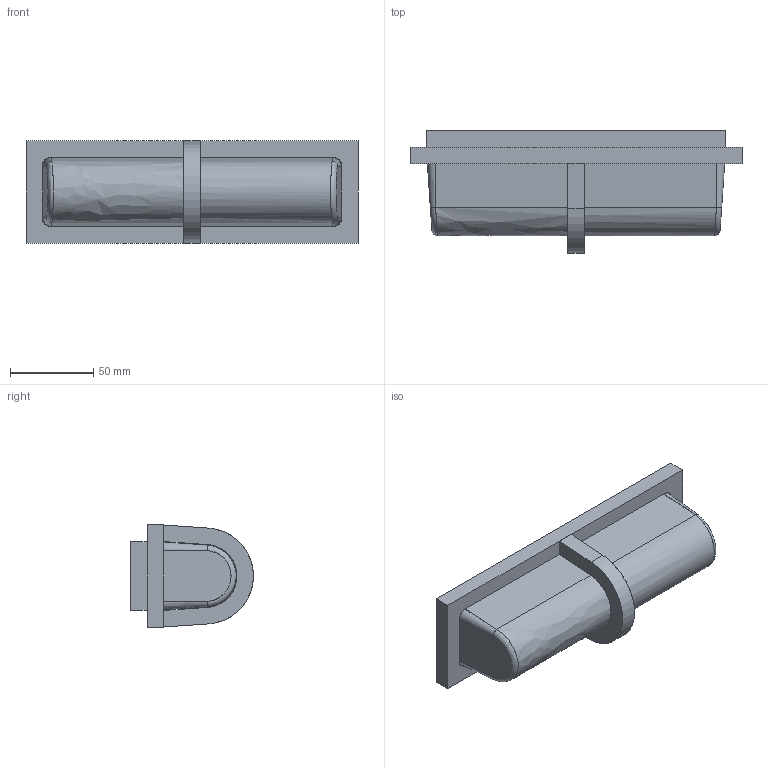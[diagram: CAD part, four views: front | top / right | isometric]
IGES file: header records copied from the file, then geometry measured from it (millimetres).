
Start section: SolidWorks IGES file using analytic representation for surfaces
Global section: file name: G:\Il mio Drive\00 File Sito\Ublo\Ublo Wall.IGS; native system: SolidWorks 2024; preprocessor: SolidWorks 2024; author: Tecnico; date: 240920.120158; units: millimetre
Bounding box: 200 x 74.04 x 61.5 mm (x, y, z)
Surface area: 88547 mm2 (no closed solid volume)
Topology: 0 solids, 0 shells, 427 faces, 3870 edges, 3866 vertices
Faces by surface type: bspline 230, revolution 197
